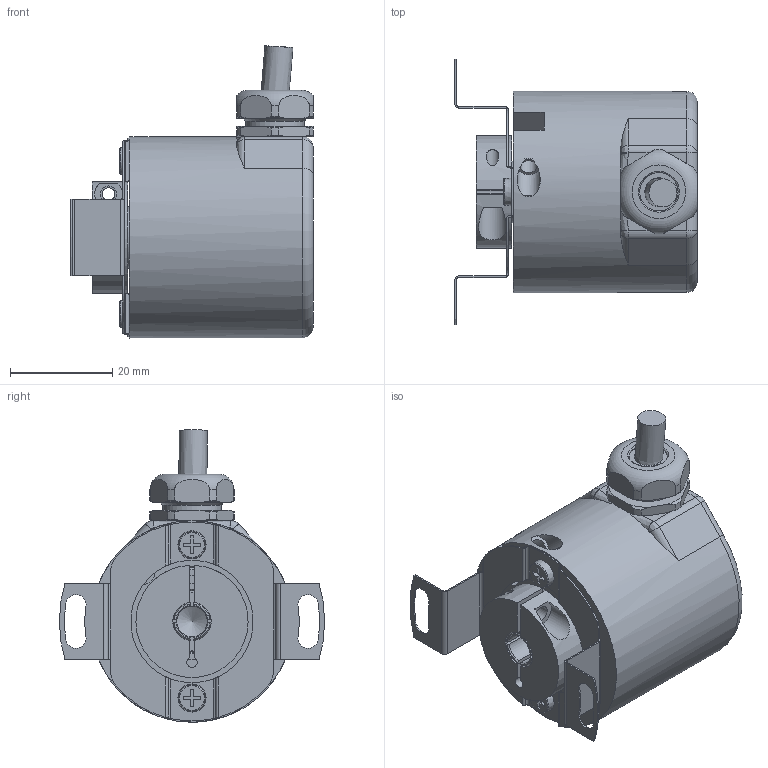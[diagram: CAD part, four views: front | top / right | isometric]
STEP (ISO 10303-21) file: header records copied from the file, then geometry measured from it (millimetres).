
FILE_DESCRIPTION( ( 'Unknown' ), '1' );
FILE_NAME( 'X:/I - Italia/UT - Ufficio Tecnico/Documenti Tecnico/Schede prodotti/InDesign/Assiemi SolidEdge per cataloghi/STEP ASSIEMI/EMI38_F.stp', 'Unknown', ( 'Unknown' ), ( 'Unknown' ), 'PSStep 17.0.49', 'Unknown', ' ' );
FILE_SCHEMA( ( 'AUTOMOTIVE_DESIGN { 1 0 10303 214 1 1 1 1 }' ) );
Length unit declared in the file: millimetre
Products named in the file (29): cavo
Bounding box: 47.51 x 52 x 57.31 mm (x, y, z)
Volume: 25478.8 mm3; surface area: 24549 mm2
Topology: 29 solids, 41 shells, 467 faces, 1199 edges, 772 vertices
Faces by surface type: plane 180, cylinder 147, cone 78, sphere 32, torus 23, bspline 7
Full cylindrical faces by diameter (mm): 1.4 x3, 2.013 x3, 2.459 x2, 2.5 x1, 3 x2, 3.2 x1, 3.242 x1, 3.5 x2, 4 x1, 4.5 x1, 6 x2, 7.5 x1, 7.7 x1, 8 x1, 10 x2, 11 x1, 11.5 x1, 11.89 x1, 12 x4, 12.5 x1, 12.6 x2, 14.5 x1, 15 x4, 18.2 x4, 19 x1, 20.4 x2, 21 x3, 24 x1, 26.5 x1, 34.5 x1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
Entity records: 18376 total; most frequent: CARTESIAN_POINT 4046, DIRECTION 2195, ORIENTED_EDGE 1888, EDGE_CURVE 944, AXIS2_PLACEMENT_3D 908, VERTEX_POINT 731, EDGE_LOOP 611, FACE_OUTER_BOUND 509
